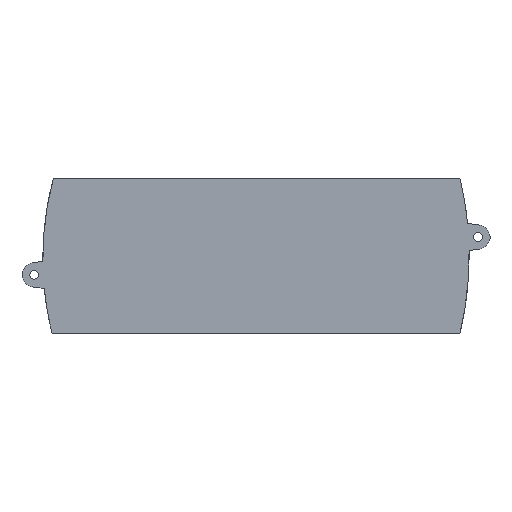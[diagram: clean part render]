
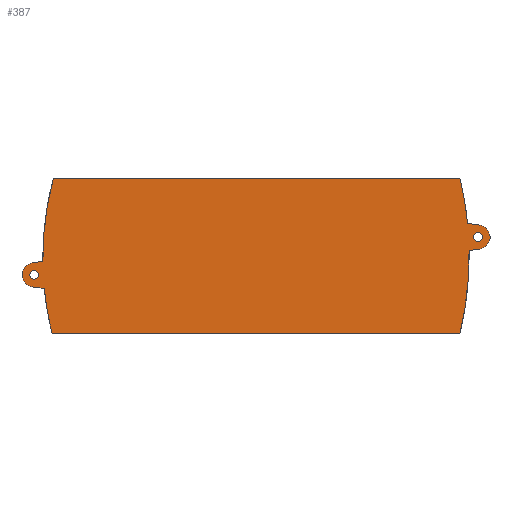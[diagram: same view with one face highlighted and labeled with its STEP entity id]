
A CAD part, top view. The second image highlights one B-rep face of the part: STEP entity #387.
In plain terms, the highlighted planar face has unit normal (0, 0, 1).
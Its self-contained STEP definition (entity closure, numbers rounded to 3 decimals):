
#387 = ADVANCED_FACE( '', ( #925, #926, #927 ), #928, .T. );
#925 = FACE_OUTER_BOUND( '', #1592, .T. );
#926 = FACE_BOUND( '', #1593, .T. );
#927 = FACE_BOUND( '', #1594, .T. );
#928 = PLANE( '', #1595 );
#1592 = EDGE_LOOP( '', ( #2737, #2738, #2739, #2740, #2741, #2742, #2743, #2744, #2745, #2746, #2747, #2748 ) );
#1593 = EDGE_LOOP( '', ( #2749 ) );
#1594 = EDGE_LOOP( '', ( #2750 ) );
#1595 = AXIS2_PLACEMENT_3D( '', #2751, #2752, #2753 );
#2737 = ORIENTED_EDGE( '', *, *, #4262, .T. );
#2738 = ORIENTED_EDGE( '', *, *, #4263, .T. );
#2739 = ORIENTED_EDGE( '', *, *, #4264, .T. );
#2740 = ORIENTED_EDGE( '', *, *, #4265, .T. );
#2741 = ORIENTED_EDGE( '', *, *, #4266, .T. );
#2742 = ORIENTED_EDGE( '', *, *, #4267, .T. );
#2743 = ORIENTED_EDGE( '', *, *, #4268, .T. );
#2744 = ORIENTED_EDGE( '', *, *, #4269, .T. );
#2745 = ORIENTED_EDGE( '', *, *, #4255, .T. );
#2746 = ORIENTED_EDGE( '', *, *, #4270, .T. );
#2747 = ORIENTED_EDGE( '', *, *, #4271, .T. );
#2748 = ORIENTED_EDGE( '', *, *, #4272, .T. );
#2749 = ORIENTED_EDGE( '', *, *, #4175, .F. );
#2750 = ORIENTED_EDGE( '', *, *, #3862, .F. );
#2751 = CARTESIAN_POINT( '', ( 206.641, 10.791, 0. ) );
#2752 = DIRECTION( '', ( 0., 0., 1. ) );
#2753 = DIRECTION( '', ( 1., 0., 0. ) );
#3862 = EDGE_CURVE( '', #4596, #4596, #4597, .T. );
#4175 = EDGE_CURVE( '', #5119, #5119, #5120, .T. );
#4255 = EDGE_CURVE( '', #5244, #5245, #5246, .T. );
#4262 = EDGE_CURVE( '', #5255, #5256, #5257, .T. );
#4263 = EDGE_CURVE( '', #5256, #5258, #5259, .T. );
#4264 = EDGE_CURVE( '', #5258, #5260, #5261, .T. );
#4265 = EDGE_CURVE( '', #5260, #5262, #5263, .T. );
#4266 = EDGE_CURVE( '', #5262, #5264, #5265, .T. );
#4267 = EDGE_CURVE( '', #5264, #5266, #5267, .T. );
#4268 = EDGE_CURVE( '', #5266, #5268, #5269, .T. );
#4269 = EDGE_CURVE( '', #5268, #5244, #5270, .T. );
#4270 = EDGE_CURVE( '', #5245, #5271, #5272, .T. );
#4271 = EDGE_CURVE( '', #5271, #5273, #5274, .T. );
#4272 = EDGE_CURVE( '', #5273, #5255, #5275, .T. );
#4596 = VERTEX_POINT( '', #5673 );
#4597 = CIRCLE( '', #5674, 2.885 );
#5119 = VERTEX_POINT( '', #6445 );
#5120 = CIRCLE( '', #6446, 2.859 );
#5244 = VERTEX_POINT( '', #6632 );
#5245 = VERTEX_POINT( '', #6633 );
#5246 = CIRCLE( '', #6634, 7.947 );
#5255 = VERTEX_POINT( '', #6646 );
#5256 = VERTEX_POINT( '', #6647 );
#5257 = CIRCLE( '', #6648, 216.086 );
#5258 = VERTEX_POINT( '', #6649 );
#5259 = LINE( '', #6650, #6651 );
#5260 = VERTEX_POINT( '', #6652 );
#5261 = CIRCLE( '', #6653, 7.947 );
#5262 = VERTEX_POINT( '', #6654 );
#5263 = LINE( '', #6655, #6656 );
#5264 = VERTEX_POINT( '', #6657 );
#5265 = CIRCLE( '', #6658, 216.086 );
#5266 = VERTEX_POINT( '', #6659 );
#5267 = LINE( '', #6660, #6661 );
#5268 = VERTEX_POINT( '', #6662 );
#5269 = CIRCLE( '', #6663, 200.946 );
#5270 = LINE( '', #6664, #6665 );
#5271 = VERTEX_POINT( '', #6666 );
#5272 = LINE( '', #6667, #6668 );
#5273 = VERTEX_POINT( '', #6669 );
#5274 = CIRCLE( '', #6670, 200.946 );
#5275 = LINE( '', #6671, #6672 );
#5673 = CARTESIAN_POINT( '', ( 292.885, 24.7, 0. ) );
#5674 = AXIS2_PLACEMENT_3D( '', #7205, #7206, #7207 );
#6445 = CARTESIAN_POINT( '', ( 2.859, 0., 0. ) );
#6446 = AXIS2_PLACEMENT_3D( '', #7469, #7470, #7471 );
#6632 = CARTESIAN_POINT( '', ( -1.117, 7.868, 0. ) );
#6633 = CARTESIAN_POINT( '', ( -1.117, -7.868, 0. ) );
#6634 = AXIS2_PLACEMENT_3D( '', #7543, #7544, #7545 );
#6646 = CARTESIAN_POINT( '', ( 278.257, -38.301, 0. ) );
#6647 = CARTESIAN_POINT( '', ( 284.248, 15.857, 0. ) );
#6648 = AXIS2_PLACEMENT_3D( '', #7552, #7553, #7554 );
#6649 = CARTESIAN_POINT( '', ( 291.117, 16.832, 0. ) );
#6650 = CARTESIAN_POINT( '', ( 275., 14.544, 0. ) );
#6651 = VECTOR( '', #7555, 1000. );
#6652 = CARTESIAN_POINT( '', ( 291.117, 32.568, 0. ) );
#6653 = AXIS2_PLACEMENT_3D( '', #7556, #7557, #7558 );
#6654 = CARTESIAN_POINT( '', ( 283.221, 33.689, 0. ) );
#6655 = CARTESIAN_POINT( '', ( 291.117, 32.568, 0. ) );
#6656 = VECTOR( '', #7559, 1000. );
#6657 = CARTESIAN_POINT( '', ( 278.257, 63., 0. ) );
#6658 = AXIS2_PLACEMENT_3D( '', #7560, #7561, #7562 );
#6659 = CARTESIAN_POINT( '', ( 12.596, 63., 0. ) );
#6660 = CARTESIAN_POINT( '', ( 278.257, 63., 0. ) );
#6661 = VECTOR( '', #7563, 1000. );
#6662 = CARTESIAN_POINT( '', ( 5.704, 8.836, 0. ) );
#6663 = AXIS2_PLACEMENT_3D( '', #7564, #7565, #7566 );
#6664 = CARTESIAN_POINT( '', ( 15., 10.156, 0. ) );
#6665 = VECTOR( '', #7567, 1000. );
#6666 = CARTESIAN_POINT( '', ( 6.669, -8.973, 0. ) );
#6667 = CARTESIAN_POINT( '', ( -1.117, -7.868, 0. ) );
#6668 = VECTOR( '', #7568, 1000. );
#6669 = CARTESIAN_POINT( '', ( 11.784, -38.301, 0. ) );
#6670 = AXIS2_PLACEMENT_3D( '', #7569, #7570, #7571 );
#6671 = CARTESIAN_POINT( '', ( 11.784, -38.301, 0. ) );
#6672 = VECTOR( '', #7572, 1000. );
#7205 = CARTESIAN_POINT( '', ( 290., 24.7, 0. ) );
#7206 = DIRECTION( '', ( 0., 0., 1. ) );
#7207 = DIRECTION( '', ( 1., 0., 0. ) );
#7469 = CARTESIAN_POINT( '', ( 0., 0., 0. ) );
#7470 = DIRECTION( '', ( 0., 0., 1. ) );
#7471 = DIRECTION( '', ( 1., 0., 0. ) );
#7543 = CARTESIAN_POINT( '', ( 0., 0., 0. ) );
#7544 = DIRECTION( '', ( 0., 0., 1. ) );
#7545 = DIRECTION( '', ( 1., 0., 0. ) );
#7552 = CARTESIAN_POINT( '', ( 68.19, 12.349, 0. ) );
#7553 = DIRECTION( '', ( 0., 0., 1. ) );
#7554 = DIRECTION( '', ( 1., 0., 0. ) );
#7555 = DIRECTION( '', ( 0.99, 0.141, 0. ) );
#7556 = CARTESIAN_POINT( '', ( 290., 24.7, 0. ) );
#7557 = DIRECTION( '', ( 0., 0., 1. ) );
#7558 = DIRECTION( '', ( 1., 0., 0. ) );
#7559 = DIRECTION( '', ( -0.99, 0.141, 0. ) );
#7560 = CARTESIAN_POINT( '', ( 68.19, 12.349, 0. ) );
#7561 = DIRECTION( '', ( 0., 0., 1. ) );
#7562 = DIRECTION( '', ( 1., 0., 0. ) );
#7563 = DIRECTION( '', ( -1., 0., 0. ) );
#7564 = CARTESIAN_POINT( '', ( 206.641, 10.791, 0. ) );
#7565 = DIRECTION( '', ( 0., 0., 1. ) );
#7566 = DIRECTION( '', ( 1., 0., 0. ) );
#7567 = DIRECTION( '', ( -0.99, -0.141, 0. ) );
#7568 = DIRECTION( '', ( 0.99, -0.141, 0. ) );
#7569 = CARTESIAN_POINT( '', ( 206.641, 10.791, 0. ) );
#7570 = DIRECTION( '', ( 0., 0., 1. ) );
#7571 = DIRECTION( '', ( 1., 0., 0. ) );
#7572 = DIRECTION( '', ( 1., 0., 0. ) );
